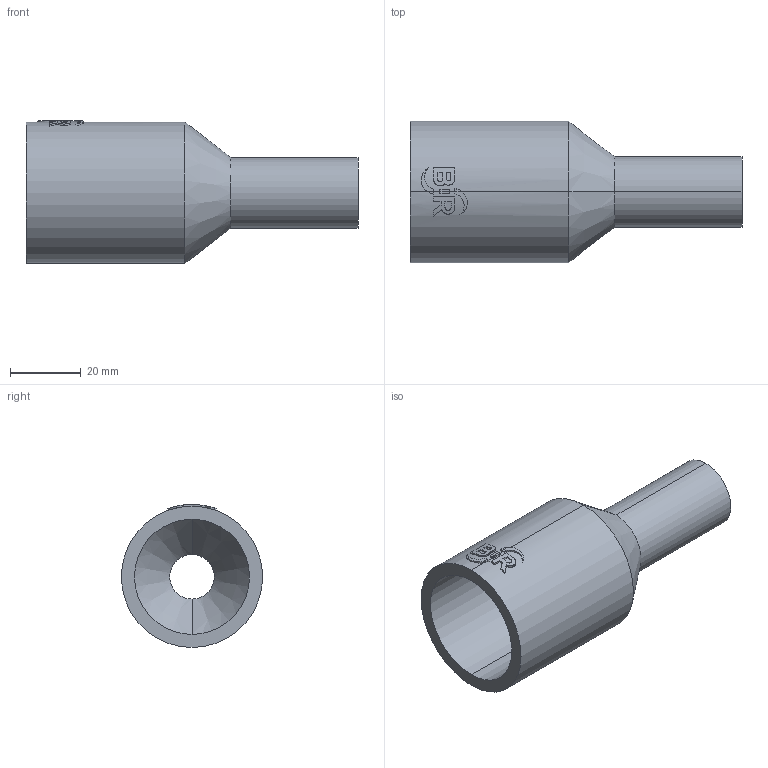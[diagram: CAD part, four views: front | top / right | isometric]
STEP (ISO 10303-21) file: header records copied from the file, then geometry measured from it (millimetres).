
FILE_DESCRIPTION (( 'STEP AP214' ), '1' );
FILE_NAME ('2323090635.STEP', '2018-07-20T09:09:50', ( '' ), ( '' ), 'SwSTEP 2.0', 'SolidWorks 2017', '' );
FILE_SCHEMA (( 'AUTOMOTIVE_DESIGN' ));
Length unit declared in the file: millimetre
Products named in the file (1): 2323090635
Bounding box: 94 x 40 x 40.46 mm (x, y, z)
Volume: 30705.6 mm3; surface area: 17247.6 mm2
Topology: 1 solids, 1 shells, 63 faces, 160 edges, 104 vertices
Faces by surface type: cylinder 31, plane 28, cone 4
Entity records: 2967 total; most frequent: CARTESIAN_POINT 758, ORIENTED_EDGE 320, DIRECTION 296, EDGE_CURVE 160, AXIS2_PLACEMENT_3D 112, VERTEX_POINT 104, VECTOR 72, LINE 72
